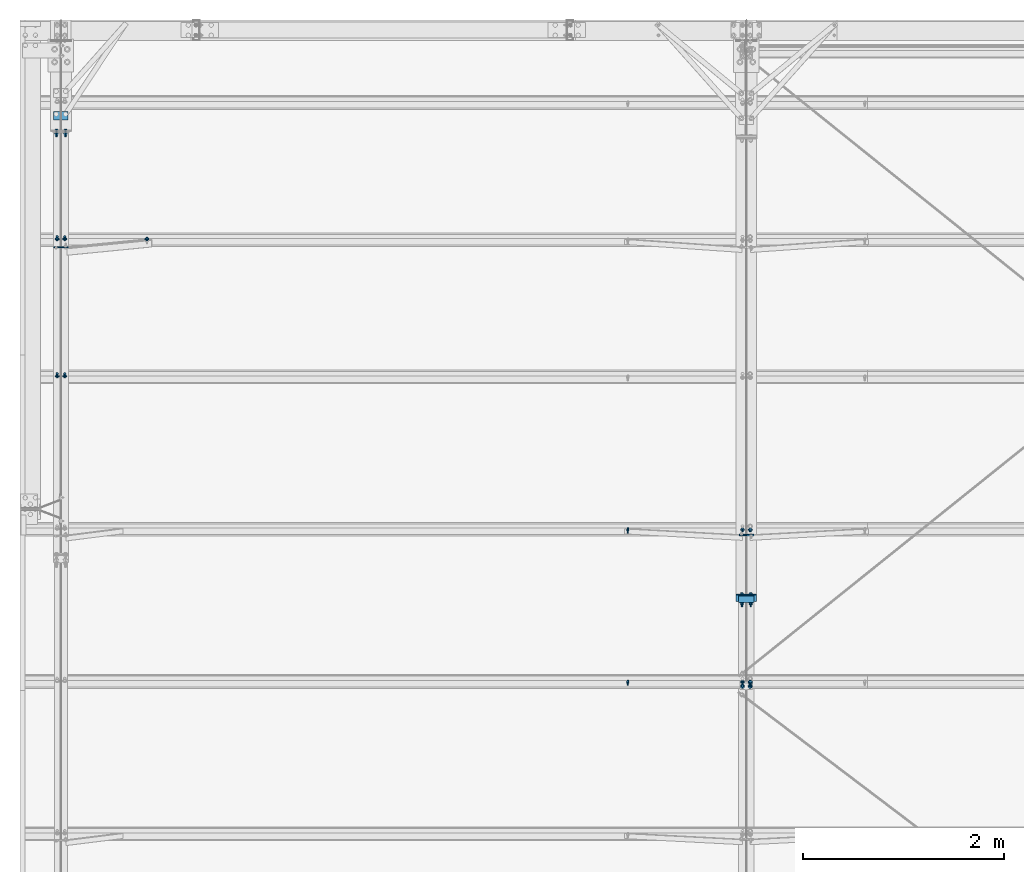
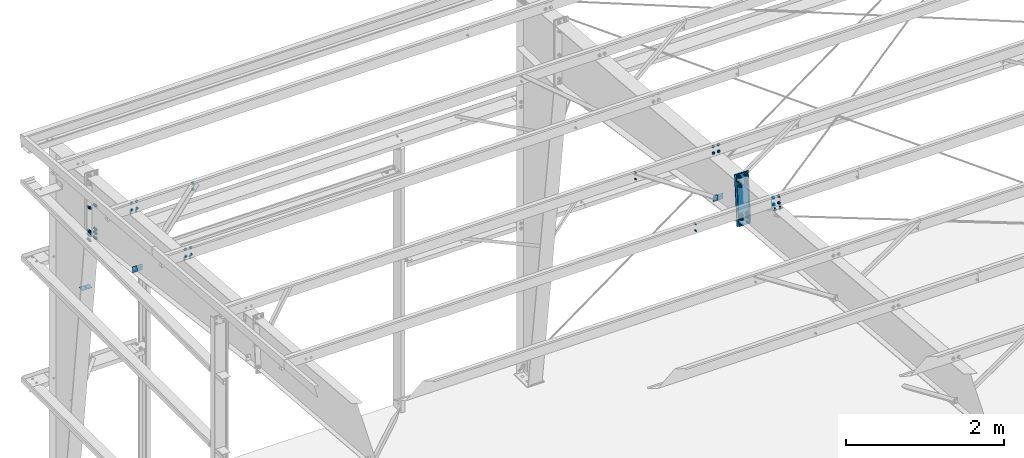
# One storey, part 85 of 185: 20 mechanical fasteners, 8 discrete accessories, 11 elements without a shape of their own.
"""IFC2X3 building model written with IfcOpenShell, lengths in millimetres."""

from ifc_helpers import new_model, si_unit, frame, origin_with_axes, origin_2d_with_axis, place, context, subcontext, project, spatial, polyline, rectangle, circle, outline, extrude, source, transform, mapped, material, type_object, element, aggregate, save


model = new_model("IFC2X3")

# Units and contexts
model_context = context("Model", 3, precision=1e-05, world=origin_with_axes())
body_context = subcontext(model_context, "Body", "Model", "MODEL_VIEW")
ifc_project = project(units=[si_unit("LENGTHUNIT", "METRE", prefix="MILLI"), si_unit("AREAUNIT", "SQUARE_METRE"), si_unit("VOLUMEUNIT", "CUBIC_METRE"), si_unit("MASSUNIT", "GRAM", prefix="KILO"), si_unit("TIMEUNIT", "SECOND"), si_unit("PLANEANGLEUNIT", "RADIAN"), si_unit("SOLIDANGLEUNIT", "STERADIAN"), si_unit("THERMODYNAMICTEMPERATUREUNIT", "DEGREE_CELSIUS"), si_unit("LUMINOUSINTENSITYUNIT", "LUMEN")], contexts=[model_context])

# Site, building, storey
site_placement = place(None, origin_with_axes())
site = spatial("IfcSite", under=ifc_project, at=site_placement, Name="Undefined", CompositionType="ELEMENT")
building_placement = place(site_placement, origin_with_axes())
building = spatial("IfcBuilding", under=site, at=building_placement, Name="Undefined", CompositionType="ELEMENT")
storey_placement = place(building_placement, origin_with_axes())
storey = spatial("IfcBuildingStorey", under=building, at=storey_placement, Name="Undefined", CompositionType="ELEMENT", Elevation=0.0)

# Assembly, mechanical fasteners
assembly_1_placement = place(storey_placement, origin_with_axes())
assembly_1 = element("IfcElementAssembly", 1, at=assembly_1_placement, inside=storey, Name="Steel Assembly", AssemblyPlace="NOTDEFINED", PredefinedType="RIGID_FRAME")
ifc_material_1 = material(Name="Undefined")
discrete_accessory_type_1 = type_object("IfcDiscreteAccessoryType", Name="Bolt assembly")
shared_shape_1 = source(origin_with_axes(), body_context, "Body", "SweptSolid", [
    extrude(circle(Radius=7.14374971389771, at=origin_2d_with_axis()), frame((0.0, -1.59000001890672, 0.0), z_axis=(0.0, 1.0, 0.0), x_axis=(1.0, 0.0, 0.0)), (0.0, 0.0, 1.0), 3.3),
    extrude(circle(Radius=13.4937496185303, at=origin_2d_with_axis()), frame((0.0, -5.5587500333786, 0.0), z_axis=(0.0, 1.0, 0.0), x_axis=(1.0, 0.0, 0.0)), (0.0, 0.0, 1.0), 4.0),
    extrude(circle(Radius=22.2250003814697, at=origin_2d_with_axis()), frame((0.0, 1.5900000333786, 0.0), z_axis=(0.0, 1.0, 0.0), x_axis=(1.0, 0.0, 0.0)), (0.0, 0.0, 1.0), 7.9),
    extrude(outline(polyline([(12.8316099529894, 0.0), (6.4158049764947, 11.1125001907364), (-6.4158049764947, 11.1125001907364), (-12.8316099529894, 0.0), (-6.4158049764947, -11.1125001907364), (6.4158049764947, -11.1125001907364), (12.8316099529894, 0.0)])), frame((0.0, 9.5275000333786, 0.0), z_axis=(0.0, 1.0, 0.0), x_axis=(1.0, 0.0, 0.0)), (0.0, 0.0, 1.0), 12.3),
])
mechanical_fastener_1_placement = place(assembly_1_placement, frame((1263.64999999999, 29818.2760586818, 6227.16757843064), z_axis=(1.0, 0.0, 0.0), x_axis=(0.0, -0.0830454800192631, -0.996545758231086)))
mechanical_fastener_1 = element("IfcMechanicalFastener", 2, at=mechanical_fastener_1_placement, type_object=discrete_accessory_type_1, material=ifc_material_1, Name="Bolt assembly", NominalDiameter=12.6999998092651, NominalLength=38.0999984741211, context=body_context, shape_type="MappedRepresentation", body=[
    mapped(shared_shape_1, transform((0.0, 0.0, 0.0))),
    mapped(shared_shape_1, transform((101.599998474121, 0.0, 0.0))),
])
mechanical_fastener_2_placement = place(assembly_1_placement, frame((444.499999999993, 29818.2760586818, 6227.16757843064), z_axis=(1.0, 0.0, 0.0), x_axis=(0.0, -0.0830454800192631, -0.996545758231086)))
mechanical_fastener_2 = element("IfcMechanicalFastener", 3, at=mechanical_fastener_2_placement, type_object=discrete_accessory_type_1, material=ifc_material_1, Name="Bolt assembly", NominalDiameter=12.6999998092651, NominalLength=38.0999984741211, context=body_context, shape_type="MappedRepresentation", body=[
    mapped(shared_shape_1, transform((0.0, 0.0, 0.0))),
    mapped(shared_shape_1, transform((101.599998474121, 0.0, 0.0))),
])
mechanical_fastener_3_placement = place(assembly_1_placement, frame((368.299999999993, 29818.2760586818, 6227.16757843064), z_axis=(1.0, 0.0, 0.0), x_axis=(0.0, -0.0830454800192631, -0.996545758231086)))
mechanical_fastener_3 = element("IfcMechanicalFastener", 4, at=mechanical_fastener_3_placement, type_object=discrete_accessory_type_1, material=ifc_material_1, Name="Bolt assembly", NominalDiameter=12.6999998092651, NominalLength=38.0999984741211, context=body_context, shape_type="MappedRepresentation", body=[
    mapped(shared_shape_1, transform((0.0, 0.0, 0.0))),
    mapped(shared_shape_1, transform((101.599998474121, 0.0, 0.0))),
])

assembly_2_placement = place(storey_placement, origin_with_axes())
assembly_2 = element("IfcElementAssembly", 5, at=assembly_2_placement, inside=storey, Name="Steel Assembly", AssemblyPlace="NOTDEFINED", PredefinedType="RIGID_FRAME")
mechanical_fastener_4_placement = place(assembly_2_placement, frame((444.499999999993, 28451.413896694, 6341.07275883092), z_axis=(1.0, 0.0, 0.0), x_axis=(0.0, -0.0830454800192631, -0.996545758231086)))
mechanical_fastener_4 = element("IfcMechanicalFastener", 6, at=mechanical_fastener_4_placement, type_object=discrete_accessory_type_1, material=ifc_material_1, Name="Bolt assembly", NominalDiameter=12.6999998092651, NominalLength=38.0999984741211, context=body_context, shape_type="MappedRepresentation", body=[
    mapped(shared_shape_1, transform((0.0, 0.0, 0.0))),
    mapped(shared_shape_1, transform((101.599998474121, 0.0, 0.0))),
])
mechanical_fastener_5_placement = place(assembly_2_placement, frame((368.299999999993, 28451.413896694, 6341.07275883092), z_axis=(1.0, 0.0, 0.0), x_axis=(0.0, -0.0830454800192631, -0.996545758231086)))
mechanical_fastener_5 = element("IfcMechanicalFastener", 7, at=mechanical_fastener_5_placement, type_object=discrete_accessory_type_1, material=ifc_material_1, Name="Bolt assembly", NominalDiameter=12.6999998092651, NominalLength=38.0999984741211, context=body_context, shape_type="MappedRepresentation", body=[
    mapped(shared_shape_1, transform((0.0, 0.0, 0.0))),
    mapped(shared_shape_1, transform((101.599998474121, 0.0, 0.0))),
])

# Assembly, mechanical fastener
assembly_3_placement = place(storey_placement, origin_with_axes())
assembly_3 = element("IfcElementAssembly", 8, at=assembly_3_placement, inside=storey, Name="Steel Assembly", AssemblyPlace="NOTDEFINED", PredefinedType="RIGID_FRAME")
mechanical_fastener_6_placement = place(assembly_3_placement, frame((7200.9, 26932.6781611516, 6467.63407038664), z_axis=(-1.0, 0.0, 0.0), x_axis=(0.0, -0.0830454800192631, -0.996545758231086)))
mechanical_fastener_6 = element("IfcMechanicalFastener", 9, at=mechanical_fastener_6_placement, type_object=discrete_accessory_type_1, material=ifc_material_1, Name="Bolt assembly", NominalDiameter=12.6999998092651, NominalLength=38.0999984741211, context=body_context, shape_type="MappedRepresentation", body=[
    mapped(shared_shape_1, transform((0.0, 0.0, 0.0))),
    mapped(shared_shape_1, transform((101.599998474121, 0.0, 0.0))),
])
aggregate(assembly_3, [mechanical_fastener_6])

assembly_4_placement = place(storey_placement, origin_with_axes())
assembly_4 = element("IfcElementAssembly", 10, at=assembly_4_placement, inside=storey, Name="Steel Assembly", AssemblyPlace="NOTDEFINED", PredefinedType="RIGID_FRAME")
mechanical_fastener_7_placement = place(assembly_4_placement, frame((7277.1, 26932.6781611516, 6467.63407038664), z_axis=(-1.0, 0.0, 0.0), x_axis=(0.0, -0.0830454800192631, -0.996545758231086)))
mechanical_fastener_7 = element("IfcMechanicalFastener", 11, at=mechanical_fastener_7_placement, type_object=discrete_accessory_type_1, material=ifc_material_1, Name="Bolt assembly", NominalDiameter=12.6999998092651, NominalLength=38.0999984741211, context=body_context, shape_type="MappedRepresentation", body=[
    mapped(shared_shape_1, transform((0.0, 0.0, 0.0))),
    mapped(shared_shape_1, transform((101.599998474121, 0.0, 0.0))),
])

assembly_5_placement = place(storey_placement, origin_with_axes())
assembly_5 = element("IfcElementAssembly", 12, at=assembly_5_placement, inside=storey, Name="Steel Assembly", AssemblyPlace="NOTDEFINED", PredefinedType="RIGID_FRAME")
mechanical_fastener_8_placement = place(assembly_5_placement, frame((7200.9, 25413.9424255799, 6594.1953819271), z_axis=(-1.0, 0.0, 0.0), x_axis=(0.0, -0.0830454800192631, -0.996545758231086)))
mechanical_fastener_8 = element("IfcMechanicalFastener", 13, at=mechanical_fastener_8_placement, type_object=discrete_accessory_type_1, material=ifc_material_1, Name="Bolt assembly", NominalDiameter=12.6999998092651, NominalLength=38.0999984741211, context=body_context, shape_type="MappedRepresentation", body=[
    mapped(shared_shape_1, transform((0.0, 0.0, 0.0))),
    mapped(shared_shape_1, transform((101.599998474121, 0.0, 0.0))),
])
aggregate(assembly_5, [mechanical_fastener_8])

assembly_6_placement = place(storey_placement, origin_with_axes())
assembly_6 = element("IfcElementAssembly", 14, at=assembly_6_placement, inside=storey, Name="Steel Assembly", AssemblyPlace="NOTDEFINED", PredefinedType="RIGID_FRAME")
mechanical_fastener_9_placement = place(assembly_6_placement, frame((7277.1, 25413.942425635, 6594.1953826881), z_axis=(-1.0, 0.0, 0.0), x_axis=(0.0, -0.0830454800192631, -0.996545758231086)))
mechanical_fastener_9 = element("IfcMechanicalFastener", 15, at=mechanical_fastener_9_placement, type_object=discrete_accessory_type_1, material=ifc_material_1, Name="Bolt assembly", NominalDiameter=12.6999998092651, NominalLength=38.0999984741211, context=body_context, shape_type="MappedRepresentation", body=[
    mapped(shared_shape_1, transform((0.0, 0.0, 0.0))),
    mapped(shared_shape_1, transform((101.599998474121, 0.0, 0.0))),
])

# Assembly, discrete accessories
assembly_7_placement = place(storey_placement, origin_with_axes())
assembly_7 = element("IfcElementAssembly", 16, at=assembly_7_placement, inside=storey, Name="Steel Assembly", AssemblyPlace="NOTDEFINED", PredefinedType="RIGID_FRAME")
ifc_material_2 = material(Name="STEEL/55")
discrete_accessory_type_2 = type_object("IfcDiscreteAccessoryType", Name="FLANGE BRACE FLIP")
discrete_accessory_1_placement = place(assembly_7_placement, frame((404.01875, 31047.9856495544, 4163.89185), z_axis=(0.0, -1.0, 0.0), x_axis=(-1.0, 0.0, 0.0)))
discrete_accessory_1 = element("IfcDiscreteAccessory", 17, at=discrete_accessory_1_placement, type_object=discrete_accessory_type_2, material=ifc_material_2, Name="FLANGE BRACE FLIP", ObjectType="PL1/8\"X2 3/4\"", context=body_context, shape_type="SweptSolid", body=[
    extrude(rectangle(XDim=3.4163, YDim=85.725, at=origin_2d_with_axis()), frame((69.8499999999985, 0.0, 0.0), z_axis=(-1.0, 0.0, 0.0), x_axis=(0.0, -1.0, 0.0)), (0.0, 0.0, 1.0), 69.9),
])
discrete_accessory_2_placement = place(assembly_7_placement, frame((408.78125, 31047.9856495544, 4163.89185), z_axis=(0.0, -1.0, 0.0), x_axis=(1.0, 0.0, 0.0)))
discrete_accessory_2 = element("IfcDiscreteAccessory", 18, at=discrete_accessory_2_placement, type_object=discrete_accessory_type_2, material=ifc_material_2, Name="FLANGE BRACE FLIP", ObjectType="PL1/8\"X2 3/4\"", context=body_context, shape_type="SweptSolid", body=[
    extrude(rectangle(XDim=3.4163, YDim=85.725, at=origin_2d_with_axis()), frame((69.8499999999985, 0.0, 0.0), z_axis=(-1.0, 0.0, 0.0), x_axis=(0.0, -1.0, 0.0)), (0.0, 0.0, 1.0), 69.9),
])

assembly_8_placement = place(storey_placement, origin_with_axes())
assembly_8 = element("IfcElementAssembly", 19, at=assembly_8_placement, inside=storey, Name="Steel Assembly", AssemblyPlace="NOTDEFINED", PredefinedType="RIGID_FRAME")
discrete_accessory_3_placement = place(assembly_8_placement, frame((408.781249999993, 29738.9844964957, 5255.10178843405), z_axis=(0.0, -0.0830454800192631, -0.996545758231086), x_axis=(1.0, 0.0, 0.0)))
discrete_accessory_3 = element("IfcDiscreteAccessory", 20, at=discrete_accessory_3_placement, type_object=discrete_accessory_type_2, material=ifc_material_2, Name="FLANGE BRACE FLIP", ObjectType="PL1/8\"X2 3/4\"", context=body_context, shape_type="SweptSolid", body=[
    extrude(rectangle(XDim=3.416, YDim=85.725, at=origin_2d_with_axis()), frame((69.8499999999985, 0.0, 0.0), z_axis=(-1.0, 0.0, 0.0), x_axis=(0.0, -1.0, 0.0)), (0.0, 0.0, 1.0), 69.9),
])
discrete_accessory_4_placement = place(assembly_8_placement, frame((404.018749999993, 29738.9844964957, 5255.10178843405), z_axis=(0.0, -0.0830454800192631, -0.996545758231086), x_axis=(-1.0, 0.0, 0.0)))
discrete_accessory_4 = element("IfcDiscreteAccessory", 21, at=discrete_accessory_4_placement, type_object=discrete_accessory_type_2, material=ifc_material_2, Name="FLANGE BRACE FLIP", ObjectType="PL1/8\"X2 3/4\"", context=body_context, shape_type="SweptSolid", body=[
    extrude(rectangle(XDim=3.416, YDim=85.725, at=origin_2d_with_axis()), frame((69.8499999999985, 0.0, 0.0), z_axis=(-1.0, 0.0, 0.0), x_axis=(0.0, -1.0, 0.0)), (0.0, 0.0, 1.0), 69.9),
])
aggregate(assembly_8, [discrete_accessory_3, discrete_accessory_4])

assembly_9_placement = place(storey_placement, origin_with_axes())
assembly_9 = element("IfcElementAssembly", 22, at=assembly_9_placement, inside=storey, Name="Steel Assembly", AssemblyPlace="NOTDEFINED", PredefinedType="RIGID_FRAME")
discrete_accessory_5_placement = place(assembly_9_placement, frame((7236.619, 26870.4225230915, 5699.99936980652), z_axis=(0.0, 0.0830454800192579, 0.996545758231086), x_axis=(-1.0, 0.0, 0.0)))
discrete_accessory_5 = element("IfcDiscreteAccessory", 23, at=discrete_accessory_5_placement, type_object=discrete_accessory_type_2, material=ifc_material_2, Name="FLANGE BRACE FLIP", ObjectType="PL1/8\"X2 3/4\"", context=body_context, shape_type="SweptSolid", body=[
    extrude(rectangle(XDim=3.416, YDim=85.725, at=origin_2d_with_axis()), frame((69.8499999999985, 0.0, 0.0), z_axis=(-1.0, 0.0, 0.0), x_axis=(0.0, -1.0, 0.0)), (0.0, 0.0, 1.0), 69.9),
])
discrete_accessory_6_placement = place(assembly_9_placement, frame((7241.381, 26870.4225230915, 5699.99936980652), z_axis=(0.0, 0.0830454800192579, 0.996545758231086), x_axis=(1.0, 0.0, 0.0)))
discrete_accessory_6 = element("IfcDiscreteAccessory", 24, at=discrete_accessory_6_placement, type_object=discrete_accessory_type_2, material=ifc_material_2, Name="FLANGE BRACE FLIP", ObjectType="PL1/8\"X2 3/4\"", context=body_context, shape_type="SweptSolid", body=[
    extrude(rectangle(XDim=3.416, YDim=85.725, at=origin_2d_with_axis()), frame((69.8499999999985, 0.0, 0.0), z_axis=(-1.0, 0.0, 0.0), x_axis=(0.0, -1.0, 0.0)), (0.0, 0.0, 1.0), 69.9),
])

# Assembly, mechanical fastener
assembly_10_placement = place(storey_placement, origin_with_axes())
assembly_10 = element("IfcElementAssembly", 25, at=assembly_10_placement, inside=storey, Name="Steel Assembly", AssemblyPlace="NOTDEFINED", PredefinedType="RIGID_FRAME")
shared_shape_2 = source(origin_with_axes(), body_context, "Body", "SweptSolid", [
    extrude(circle(Radius=7.14374971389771, at=origin_2d_with_axis()), frame((0.0, -4.65999985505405, 0.0), z_axis=(0.0, 1.0, 0.0), x_axis=(1.0, 0.0, 0.0)), (0.0, 0.0, 1.0), 4.8),
    extrude(circle(Radius=7.14374971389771, at=origin_2d_with_axis()), frame((0.0, -0.0238014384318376, 0.0), z_axis=(0.0, 1.0, 0.0), x_axis=(1.0, 0.0, 0.0)), (0.0, 0.0, 1.0), 8.0),
    extrude(outline(polyline([(12.8316099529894, 0.0), (6.4158049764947, 11.1125001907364), (-6.4158049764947, 11.1125001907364), (-12.8316099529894, 0.0), (-6.4158049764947, -11.1125001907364), (6.4158049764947, -11.1125001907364), (12.8316099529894, 0.0)])), frame((0.0, -12.697499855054, 0.0), z_axis=(0.0, 1.0, 0.0), x_axis=(1.0, 0.0, 0.0)), (0.0, 0.0, 1.0), 7.9),
    extrude(circle(Radius=6.34999990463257, at=origin_2d_with_axis()), frame((0.0, -4.75999985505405, 0.0), z_axis=(0.0, 1.0, 0.0), x_axis=(1.0, 0.0, 0.0)), (0.0, 0.0, 1.0), 50.8),
    extrude(circle(Radius=22.2250003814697, at=origin_2d_with_axis()), frame((0.0, 7.95019856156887, 0.0), z_axis=(0.0, 1.0, 0.0), x_axis=(1.0, 0.0, 0.0)), (0.0, 0.0, 1.0), 7.9),
    extrude(outline(polyline([(12.8316099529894, 0.0), (6.4158049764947, 11.1125001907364), (-6.4158049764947, 11.1125001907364), (-12.8316099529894, 0.0), (-6.4158049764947, -11.1125001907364), (6.4158049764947, -11.1125001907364), (12.8316099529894, 0.0)])), frame((0.0, 15.8876985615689, 0.0), z_axis=(0.0, 1.0, 0.0), x_axis=(1.0, 0.0, 0.0)), (0.0, 0.0, 1.0), 12.3),
])
mechanical_fastener_10_placement = place(assembly_10_placement, frame((7239.0, 25363.3179010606, 6445.48584115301), z_axis=(1.0, 0.0, 0.0), x_axis=(0.0, -0.996545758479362, 0.0830454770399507)))
mechanical_fastener_10 = element("IfcMechanicalFastener", 26, at=mechanical_fastener_10_placement, type_object=discrete_accessory_type_1, material=ifc_material_1, Name="Bolt assembly", NominalDiameter=12.6999998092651, NominalLength=50.7999992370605, context=body_context, shape_type="MappedRepresentation", body=[
    mapped(shared_shape_2, transform((0.0, 0.0, -38.0999984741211))),
    mapped(shared_shape_2, transform((0.0, 0.0, 38.0999984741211))),
])

# Assembly, mechanical fasteners
assembly_11_placement = place(storey_placement, origin_with_axes())
assembly_11 = element("IfcElementAssembly", 27, at=assembly_11_placement, inside=storey, Name="Steel Assembly", AssemblyPlace="NOTDEFINED", PredefinedType="RIGID_FRAME")
shared_shape_3 = source(origin_with_axes(), body_context, "Body", "SweptSolid", [
    extrude(circle(Radius=7.14374971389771, at=origin_2d_with_axis()), frame((0.0, 0.0, 0.0), z_axis=(0.0, 1.0, 0.0), x_axis=(1.0, 0.0, 0.0)), (0.0, 0.0, 1.0), 4.9),
    extrude(outline(polyline([(12.8316099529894, 0.0), (6.4158049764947, 11.1125001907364), (-6.4158049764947, 11.1125001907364), (-12.8316099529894, 0.0), (-6.4158049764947, -11.1125001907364), (6.4158049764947, -11.1125001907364), (12.8316099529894, 0.0)])), frame((0.0, 4.76000382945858, 0.0), z_axis=(0.0, 1.0, 0.0), x_axis=(1.0, 0.0, 0.0)), (0.0, 0.0, 1.0), 12.3),
])
mechanical_fastener_11_placement = place(assembly_11_placement, frame((7200.9, 25413.9424255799, 6594.1953819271), z_axis=(-1.0, 0.0, 0.0), x_axis=(0.0, -0.0830454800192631, -0.996545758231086)))
mechanical_fastener_11 = element("IfcMechanicalFastener", 28, at=mechanical_fastener_11_placement, type_object=discrete_accessory_type_1, material=ifc_material_1, Name="Bolt assembly", NominalDiameter=12.6999998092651, NominalLength=50.7999992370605, context=body_context, shape_type="MappedRepresentation", body=[
    mapped(shared_shape_3, transform((0.0, 0.0, 0.0))),
    mapped(shared_shape_3, transform((101.599998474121, 0.0, 0.0))),
])
shared_shape_4 = source(origin_with_axes(), body_context, "Body", "SweptSolid", [
    extrude(circle(Radius=7.14374971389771, at=origin_2d_with_axis()), frame((0.0, 0.0, 0.0), z_axis=(0.0, 1.0, 0.0), x_axis=(1.0, 0.0, 0.0)), (0.0, 0.0, 1.0), 4.9),
    extrude(outline(polyline([(12.8316099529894, 0.0), (6.4158049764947, 11.1125001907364), (-6.4158049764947, 11.1125001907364), (-12.8316099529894, 0.0), (-6.4158049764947, -11.1125001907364), (6.4158049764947, -11.1125001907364), (12.8316099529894, 0.0)])), frame((0.0, -11.9062498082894, 0.0), z_axis=(0.0, 1.0, 0.0), x_axis=(1.0, 0.0, 0.0)), (0.0, 0.0, 1.0), 7.9),
    extrude(circle(Radius=6.34999990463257, at=origin_2d_with_axis()), frame((0.0, -3.96874999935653, 0.0), z_axis=(0.0, 1.0, 0.0), x_axis=(1.0, 0.0, 0.0)), (0.0, 0.0, 1.0), 50.8),
    extrude(circle(Radius=13.4937496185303, at=origin_2d_with_axis()), frame((0.0, -3.96874999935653, 0.0), z_axis=(0.0, 1.0, 0.0), x_axis=(1.0, 0.0, 0.0)), (0.0, 0.0, 1.0), 4.0),
    extrude(circle(Radius=22.2250003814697, at=origin_2d_with_axis()), frame((0.0, 4.76000382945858, 0.0), z_axis=(0.0, 1.0, 0.0), x_axis=(1.0, 0.0, 0.0)), (0.0, 0.0, 1.0), 7.9),
    extrude(outline(polyline([(12.8316099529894, 0.0), (6.4158049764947, 11.1125001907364), (-6.4158049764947, 11.1125001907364), (-12.8316099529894, 0.0), (-6.4158049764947, -11.1125001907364), (6.4158049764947, -11.1125001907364), (12.8316099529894, 0.0)])), frame((0.0, 12.6975038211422, 0.0), z_axis=(0.0, 1.0, 0.0), x_axis=(1.0, 0.0, 0.0)), (0.0, 0.0, 1.0), 12.3),
])
mechanical_fastener_12_placement = place(assembly_11_placement, frame((7277.1, 25413.942425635, 6594.1953826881), z_axis=(-1.0, 0.0, 0.0), x_axis=(0.0, -0.0830454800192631, -0.996545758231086)))
mechanical_fastener_12 = element("IfcMechanicalFastener", 29, at=mechanical_fastener_12_placement, type_object=discrete_accessory_type_1, material=ifc_material_1, Name="Bolt assembly", NominalDiameter=12.6999998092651, NominalLength=50.7999992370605, context=body_context, shape_type="MappedRepresentation", body=[
    mapped(shared_shape_4, transform((0.0, 0.0, 0.0))),
    mapped(shared_shape_4, transform((101.599998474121, 0.0, 0.0))),
])
aggregate(assembly_11, [mechanical_fastener_11, mechanical_fastener_12])

# Mechanical fastener
shared_shape_5 = source(origin_with_axes(), body_context, "Body", "SweptSolid", [
    extrude(circle(Radius=7.14374971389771, at=origin_2d_with_axis()), frame((0.0, -1.4900000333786, 0.0), z_axis=(0.0, 1.0, 0.0), x_axis=(1.0, 0.0, 0.0)), (0.0, 0.0, 1.0), 3.2),
    extrude(circle(Radius=7.14374971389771, at=origin_2d_with_axis()), frame((0.0, -1.4900000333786, 0.0), z_axis=(0.0, 1.0, 0.0), x_axis=(1.0, 0.0, 0.0)), (0.0, 0.0, 1.0), 3.2),
    extrude(outline(polyline([(10.9985221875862, 0.0), (5.4992610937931, 9.52499961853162), (-5.4992610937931, 9.52499961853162), (-10.9985221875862, 0.0), (-5.4992610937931, -9.52499961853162), (5.4992610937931, -9.52499961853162), (10.9985221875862, 0.0)])), frame((0.0, -11.1149996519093, 0.0), z_axis=(0.0, 1.0, 0.0), x_axis=(1.0, 0.0, 0.0)), (0.0, 0.0, 1.0), 9.5),
    extrude(circle(Radius=6.34999990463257, at=origin_2d_with_axis()), frame((0.0, -1.59000001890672, 0.0), z_axis=(0.0, 1.0, 0.0), x_axis=(1.0, 0.0, 0.0)), (0.0, 0.0, 1.0), 38.1),
    extrude(outline(polyline([(12.8316099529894, 0.0), (6.4158049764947, 11.1125001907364), (-6.4158049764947, 11.1125001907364), (-12.8316099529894, 0.0), (-6.4158049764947, -11.1125001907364), (6.4158049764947, -11.1125001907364), (12.8316099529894, 0.0)])), frame((0.0, 1.5900000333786, 0.0), z_axis=(0.0, 1.0, 0.0), x_axis=(1.0, 0.0, 0.0)), (0.0, 0.0, 1.0), 12.3),
])
mechanical_fastener_13_placement = place(assembly_6_placement, frame((6057.9, 25413.9424255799, 6594.19538192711), z_axis=(-1.0, 0.0, 0.0), x_axis=(0.0, -0.0830454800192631, -0.996545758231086)))
mechanical_fastener_13 = element("IfcMechanicalFastener", 30, at=mechanical_fastener_13_placement, type_object=discrete_accessory_type_1, material=ifc_material_1, Name="Bolt assembly", NominalDiameter=12.6999998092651, NominalLength=38.0999984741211, context=body_context, shape_type="MappedRepresentation", body=[
    mapped(shared_shape_5, transform((0.0, 0.0, 0.0))),
    mapped(shared_shape_5, transform((101.599998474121, 0.0, 0.0))),
])

aggregate(assembly_6, [mechanical_fastener_13, mechanical_fastener_9])

mechanical_fastener_14_placement = place(assembly_4_placement, frame((6057.9, 26932.6781611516, 6467.63407038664), z_axis=(-1.0, 0.0, 0.0), x_axis=(0.0, -0.0830454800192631, -0.996545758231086)))
mechanical_fastener_14 = element("IfcMechanicalFastener", 31, at=mechanical_fastener_14_placement, type_object=discrete_accessory_type_1, material=ifc_material_1, Name="Bolt assembly", NominalDiameter=12.6999998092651, NominalLength=38.0999984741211, context=body_context, shape_type="MappedRepresentation", body=[
    mapped(shared_shape_5, transform((0.0, 0.0, 0.0))),
    mapped(shared_shape_5, transform((101.599998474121, 0.0, 0.0))),
])

aggregate(assembly_4, [mechanical_fastener_7, mechanical_fastener_14])

shared_shape_6 = source(origin_with_axes(), body_context, "Body", "SweptSolid", [
    extrude(circle(Radius=10.3187494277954, at=origin_2d_with_axis()), frame((0.0, -0.1, 0.0), z_axis=(0.0, 1.0, 0.0), x_axis=(1.0, 0.0, 0.0)), (0.0, 0.0, 1.0), 12.8),
    extrude(circle(Radius=10.3187494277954, at=origin_2d_with_axis()), frame((0.0, -12.5999999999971, 0.0), z_axis=(0.0, 1.0, 0.0), x_axis=(1.0, 0.0, 0.0)), (0.0, 0.0, 1.0), 12.7),
    extrude(outline(polyline([(18.3308710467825, 0.0), (9.16543552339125, 15.8750000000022), (-9.16543552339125, 15.8750000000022), (-18.3308710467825, 0.0), (-9.16543552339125, -15.8750000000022), (9.16543552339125, -15.8750000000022), (18.3308710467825, 0.0)])), frame((0.0, -24.6062499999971, 0.0), z_axis=(0.0, 1.0, 0.0), x_axis=(1.0, 0.0, 0.0)), (0.0, 0.0, 1.0), 11.9),
    extrude(circle(Radius=9.52499961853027, at=origin_2d_with_axis()), frame((0.0, -12.6999999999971, 0.0), z_axis=(0.0, 1.0, 0.0), x_axis=(1.0, 0.0, 0.0)), (0.0, 0.0, 1.0), 69.8),
    extrude(circle(Radius=22.2250003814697, at=origin_2d_with_axis()), frame((0.0, 12.6999999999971, 0.0), z_axis=(0.0, 1.0, 0.0), x_axis=(1.0, 0.0, 0.0)), (0.0, 0.0, 1.0), 7.9),
    extrude(outline(polyline([(18.3308710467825, 0.0), (9.16543552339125, 15.8750000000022), (-9.16543552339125, 15.8750000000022), (-18.3308710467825, 0.0), (-9.16543552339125, -15.8750000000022), (9.16543552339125, -15.8750000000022), (18.3308710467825, 0.0)])), frame((0.0, 20.6374999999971, 0.0), z_axis=(0.0, 1.0, 0.0), x_axis=(1.0, 0.0, 0.0)), (0.0, 0.0, 1.0), 19.0),
])
mechanical_fastener_15_placement = place(assembly_7_placement, frame((406.4, 30892.75, 5519.48231067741), z_axis=(-1.0, 0.0, 0.0), x_axis=(0.0, 0.0, -1.0)))
mechanical_fastener_15 = element("IfcMechanicalFastener", 32, at=mechanical_fastener_15_placement, type_object=discrete_accessory_type_1, material=ifc_material_1, Name="Bolt assembly", NominalDiameter=19.0499992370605, NominalLength=69.8499984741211, context=body_context, shape_type="MappedRepresentation", body=[
    mapped(shared_shape_6, transform((0.0, 0.0, -44.4500007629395))),
    mapped(shared_shape_6, transform((0.0, 0.0, 44.4500007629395))),
])

mechanical_fastener_16_placement = place(assembly_7_placement, frame((406.4, 30892.75, 5017.83231443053), z_axis=(1.0, 0.0, 0.0), x_axis=(0.0, 0.0, 1.0)))
mechanical_fastener_16 = element("IfcMechanicalFastener", 33, at=mechanical_fastener_16_placement, type_object=discrete_accessory_type_1, material=ifc_material_1, Name="Bolt assembly", NominalDiameter=19.0499992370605, NominalLength=69.8499984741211, context=body_context, shape_type="MappedRepresentation", body=[
    mapped(shared_shape_6, transform((0.0, 0.0, -44.4500007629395))),
    mapped(shared_shape_6, transform((76.1999969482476, 0.0, -44.4500007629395))),
    mapped(shared_shape_6, transform((133.350006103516, 0.0, -44.4500007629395))),
    mapped(shared_shape_6, transform((0.0, 0.0, 44.4500007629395))),
    mapped(shared_shape_6, transform((76.1999969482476, 0.0, 44.4500007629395))),
    mapped(shared_shape_6, transform((133.350006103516, 0.0, 44.4500007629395))),
])

aggregate(assembly_7, [mechanical_fastener_15, discrete_accessory_1, discrete_accessory_2, mechanical_fastener_16])

shared_shape_7 = source(origin_with_axes(), body_context, "Body", "SweptSolid", [
    extrude(circle(Radius=7.14374971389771, at=origin_2d_with_axis()), frame((0.0, -0.1, 0.0), z_axis=(0.0, 1.0, 0.0), x_axis=(1.0, 0.0, 0.0)), (0.0, 0.0, 1.0), 6.5),
    extrude(circle(Radius=7.14374971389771, at=origin_2d_with_axis()), frame((0.0, -3.08000006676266, 0.0), z_axis=(0.0, 1.0, 0.0), x_axis=(1.0, 0.0, 0.0)), (0.0, 0.0, 1.0), 3.2),
    extrude(outline(polyline([(10.9985221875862, 0.0), (5.4992610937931, 9.52499961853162), (-5.4992610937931, 9.52499961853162), (-10.9985221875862, 0.0), (-5.4992610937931, -9.52499961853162), (5.4992610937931, -9.52499961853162), (10.9985221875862, 0.0)])), frame((0.0, -16.6737496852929, 0.0), z_axis=(0.0, 1.0, 0.0), x_axis=(1.0, 0.0, 0.0)), (0.0, 0.0, 1.0), 9.5),
    extrude(circle(Radius=6.34999990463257, at=origin_2d_with_axis()), frame((0.0, -7.14875006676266, 0.0), z_axis=(0.0, 1.0, 0.0), x_axis=(1.0, 0.0, 0.0)), (0.0, 0.0, 1.0), 38.1),
    extrude(circle(Radius=13.4937496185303, at=origin_2d_with_axis()), frame((0.0, -7.14875006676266, 0.0), z_axis=(0.0, 1.0, 0.0), x_axis=(1.0, 0.0, 0.0)), (0.0, 0.0, 1.0), 4.0),
    extrude(outline(polyline([(12.8316099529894, 0.0), (6.4158049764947, 11.1125001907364), (-6.4158049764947, 11.1125001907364), (-12.8316099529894, 0.0), (-6.4158049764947, -11.1125001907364), (6.4158049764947, -11.1125001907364), (12.8316099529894, 0.0)])), frame((0.0, 6.35000000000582, 0.0), z_axis=(0.0, 1.0, 0.0), x_axis=(1.0, 0.0, 0.0)), (0.0, 0.0, 1.0), 12.3),
])
mechanical_fastener_17_placement = place(assembly_1_placement, frame((406.399999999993, 29843.5883209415, 6072.12997209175), z_axis=(-1.0, 0.0, 0.0), x_axis=(0.0, 0.996545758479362, -0.0830454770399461)))
mechanical_fastener_17 = element("IfcMechanicalFastener", 34, at=mechanical_fastener_17_placement, type_object=discrete_accessory_type_1, material=ifc_material_1, Name="Bolt assembly", NominalDiameter=12.6999998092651, NominalLength=38.0999984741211, context=body_context, shape_type="MappedRepresentation", body=[
    mapped(shared_shape_7, transform((0.0, 0.0, -38.0999984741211))),
    mapped(shared_shape_7, transform((0.0, 0.0, 38.0999984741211))),
])

aggregate(assembly_1, [mechanical_fastener_1, mechanical_fastener_17, mechanical_fastener_2, mechanical_fastener_3])

shared_shape_8 = source(origin_with_axes(), body_context, "Body", "SweptSolid", [
    extrude(circle(Radius=7.14374971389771, at=origin_2d_with_axis()), frame((0.0, -0.1, 0.0), z_axis=(0.0, 1.0, 0.0), x_axis=(1.0, 0.0, 0.0)), (0.0, 0.0, 1.0), 6.4),
    extrude(circle(Radius=7.14374971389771, at=origin_2d_with_axis()), frame((0.0, -3.08000006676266, 0.0), z_axis=(0.0, 1.0, 0.0), x_axis=(1.0, 0.0, 0.0)), (0.0, 0.0, 1.0), 3.2),
    extrude(outline(polyline([(10.9985221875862, 0.0), (5.4992610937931, 9.52499961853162), (-5.4992610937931, 9.52499961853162), (-10.9985221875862, 0.0), (-5.4992610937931, -9.52499961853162), (5.4992610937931, -9.52499961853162), (10.9985221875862, 0.0)])), frame((0.0, -16.6737496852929, 0.0), z_axis=(0.0, 1.0, 0.0), x_axis=(1.0, 0.0, 0.0)), (0.0, 0.0, 1.0), 9.5),
    extrude(circle(Radius=6.34999990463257, at=origin_2d_with_axis()), frame((0.0, -7.14875006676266, 0.0), z_axis=(0.0, 1.0, 0.0), x_axis=(1.0, 0.0, 0.0)), (0.0, 0.0, 1.0), 38.1),
    extrude(circle(Radius=13.4937496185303, at=origin_2d_with_axis()), frame((0.0, -7.14875006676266, 0.0), z_axis=(0.0, 1.0, 0.0), x_axis=(1.0, 0.0, 0.0)), (0.0, 0.0, 1.0), 4.0),
    extrude(outline(polyline([(12.8316099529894, 0.0), (6.4158049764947, 11.1125001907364), (-6.4158049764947, 11.1125001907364), (-12.8316099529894, 0.0), (-6.4158049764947, -11.1125001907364), (6.4158049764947, -11.1125001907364), (12.8316099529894, 0.0)])), frame((0.0, 6.35000000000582, 0.0), z_axis=(0.0, 1.0, 0.0), x_axis=(1.0, 0.0, 0.0)), (0.0, 0.0, 1.0), 12.3),
])
mechanical_fastener_18_placement = place(assembly_2_placement, frame((406.399999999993, 28476.7261589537, 6186.03515249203), z_axis=(-1.0, 0.0, 0.0), x_axis=(0.0, 0.996545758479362, -0.0830454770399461)))
mechanical_fastener_18 = element("IfcMechanicalFastener", 35, at=mechanical_fastener_18_placement, type_object=discrete_accessory_type_1, material=ifc_material_1, Name="Bolt assembly", NominalDiameter=12.6999998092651, NominalLength=38.0999984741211, context=body_context, shape_type="MappedRepresentation", body=[
    mapped(shared_shape_8, transform((0.0, 0.0, -38.0999984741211))),
    mapped(shared_shape_8, transform((0.0, 0.0, 38.0999984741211))),
])

aggregate(assembly_2, [mechanical_fastener_18, mechanical_fastener_4, mechanical_fastener_5])

# Discrete accessory
discrete_accessory_type_3 = type_object("IfcDiscreteAccessoryType", Name="Start Splice Plate")
discrete_accessory_7_placement = place(assembly_10_placement, frame((7239.0, 26267.033405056, 6441.84859146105), z_axis=(-1.0, 0.0, 0.0), x_axis=(0.0, -0.0830454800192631, -0.996545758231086)))
discrete_accessory_7 = element("IfcDiscreteAccessory", 36, at=discrete_accessory_7_placement, type_object=discrete_accessory_type_3, material=ifc_material_2, Name="Start Splice Plate", ObjectType="PL3/8\"X6\"", context=body_context, shape_type="SweptSolid", body=[
    extrude(rectangle(XDim=9.652, YDim=152.4, at=origin_2d_with_axis()), frame((768.349996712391, 0.0, 0.0), z_axis=(-1.0, 0.0, 0.0), x_axis=(0.0, -1.0, 0.0)), (0.0, 0.0, 1.0), 768.3),
])

aggregate(assembly_10, [mechanical_fastener_10, discrete_accessory_7])

discrete_accessory_type_4 = type_object("IfcDiscreteAccessoryType", Name="End Splice Plate")
discrete_accessory_8_placement = place(assembly_9_placement, frame((7239.0, 26278.1708004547, 6440.92047408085), z_axis=(-1.0, 0.0, 0.0), x_axis=(0.0, -0.0830454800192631, -0.996545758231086)))
discrete_accessory_8 = element("IfcDiscreteAccessory", 37, at=discrete_accessory_8_placement, type_object=discrete_accessory_type_4, material=ifc_material_2, Name="End Splice Plate", ObjectType="FL1/2\"X8\"", context=body_context, shape_type="SweptSolid", body=[
    extrude(rectangle(XDim=12.7, YDim=203.2, at=origin_2d_with_axis()), frame((768.349996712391, 0.0, 0.0), z_axis=(-1.0, 0.0, 0.0), x_axis=(0.0, -1.0, 0.0)), (0.0, 0.0, 1.0), 768.3),
])

# Mechanical fastener
shared_shape_9 = source(origin_with_axes(), body_context, "Body", "SweptSolid", [
    extrude(circle(Radius=10.3187494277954, at=origin_2d_with_axis()), frame((0.0, -0.1, 0.0), z_axis=(0.0, 1.0, 0.0), x_axis=(1.0, 0.0, 0.0)), (0.0, 0.0, 1.0), 9.8),
    extrude(circle(Radius=10.3187494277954, at=origin_2d_with_axis()), frame((0.0, -12.5999999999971, 0.0), z_axis=(0.0, 1.0, 0.0), x_axis=(1.0, 0.0, 0.0)), (0.0, 0.0, 1.0), 12.7),
    extrude(outline(polyline([(18.3308710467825, 0.0), (9.16543552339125, 15.8750000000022), (-9.16543552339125, 15.8750000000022), (-18.3308710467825, 0.0), (-9.16543552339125, -15.8750000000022), (9.16543552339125, -15.8750000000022), (18.3308710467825, 0.0)])), frame((0.0, -24.6062499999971, 0.0), z_axis=(0.0, 1.0, 0.0), x_axis=(1.0, 0.0, 0.0)), (0.0, 0.0, 1.0), 11.9),
    extrude(circle(Radius=9.52499961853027, at=origin_2d_with_axis()), frame((0.0, -12.6999999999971, 0.0), z_axis=(0.0, 1.0, 0.0), x_axis=(1.0, 0.0, 0.0)), (0.0, 0.0, 1.0), 69.8),
    extrude(circle(Radius=22.2250003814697, at=origin_2d_with_axis()), frame((0.0, 9.65200009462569, 0.0), z_axis=(0.0, 1.0, 0.0), x_axis=(1.0, 0.0, 0.0)), (0.0, 0.0, 1.0), 7.9),
    extrude(outline(polyline([(18.3308710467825, 0.0), (9.16543552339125, 15.8750000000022), (-9.16543552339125, 15.8750000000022), (-18.3308710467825, 0.0), (-9.16543552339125, -15.8750000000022), (9.16543552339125, -15.8750000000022), (18.3308710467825, 0.0)])), frame((0.0, 17.5895000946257, 0.0), z_axis=(0.0, 1.0, 0.0), x_axis=(1.0, 0.0, 0.0)), (0.0, 0.0, 1.0), 19.0),
])
mechanical_fastener_19_placement = place(assembly_9_placement, frame((7239.0, 26210.6714344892, 5707.39220954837), z_axis=(1.0, 0.0, 0.0), x_axis=(0.0, 0.0830454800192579, 0.996545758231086)))
mechanical_fastener_19 = element("IfcMechanicalFastener", 38, at=mechanical_fastener_19_placement, type_object=discrete_accessory_type_1, material=ifc_material_1, Name="Bolt assembly", NominalDiameter=19.0499992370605, NominalLength=69.8499984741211, context=body_context, shape_type="MappedRepresentation", body=[
    mapped(shared_shape_9, transform((0.0, 0.0, -44.4500007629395))),
    mapped(shared_shape_9, transform((79.3750000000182, 6.18456397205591e-11, -44.4500007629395))),
    mapped(shared_shape_9, transform((136.524993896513, 1.0550138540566e-10, -44.4500007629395))),
    mapped(shared_shape_9, transform((0.0, 0.0, 44.4500007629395))),
    mapped(shared_shape_9, transform((79.3750000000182, 6.18456397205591e-11, 44.4500007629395))),
    mapped(shared_shape_9, transform((136.524993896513, 1.0550138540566e-10, 44.4500007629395))),
])

mechanical_fastener_20_placement = place(assembly_9_placement, frame((7239.0, 26269.2060410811, 6409.80748723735), z_axis=(-1.0, 0.0, 0.0), x_axis=(0.0, -0.0830454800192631, -0.996545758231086)))
mechanical_fastener_20 = element("IfcMechanicalFastener", 39, at=mechanical_fastener_20_placement, type_object=discrete_accessory_type_1, material=ifc_material_1, Name="Bolt assembly", NominalDiameter=19.0499992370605, NominalLength=69.8499984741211, context=body_context, shape_type="MappedRepresentation", body=[
    mapped(shared_shape_9, transform((0.0, 0.0, -44.4500007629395))),
    mapped(shared_shape_9, transform((79.3750000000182, 6.18456397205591e-11, -44.4500007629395))),
    mapped(shared_shape_9, transform((136.524993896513, 1.0550138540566e-10, -44.4500007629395))),
    mapped(shared_shape_9, transform((0.0, 0.0, 44.4500007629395))),
    mapped(shared_shape_9, transform((79.3750000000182, 6.18456397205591e-11, 44.4500007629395))),
    mapped(shared_shape_9, transform((136.524993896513, 1.0550138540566e-10, 44.4500007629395))),
])

aggregate(assembly_9, [discrete_accessory_5, discrete_accessory_6, mechanical_fastener_19, mechanical_fastener_20, discrete_accessory_8])

save(model, "model.ifc")
